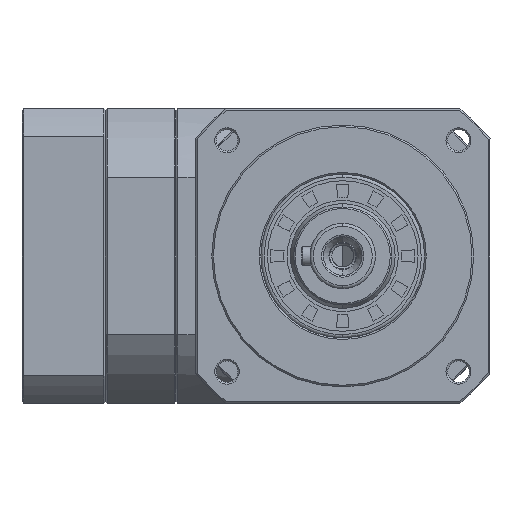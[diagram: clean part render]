
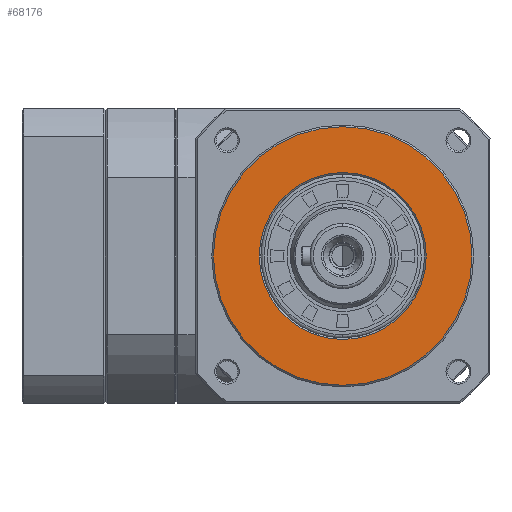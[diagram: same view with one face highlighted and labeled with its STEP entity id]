
A CAD part, left-side view. The second image highlights one B-rep face of the part: STEP entity #68176.
In plain terms, the highlighted planar face has unit normal (-1, 0, 0).
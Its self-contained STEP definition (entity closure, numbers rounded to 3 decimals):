
#436 = CIRCLE ( 'NONE', #11419, 25.5 ) ;
#3754 = DIRECTION ( 'NONE',  ( 0., 0., 1. ) ) ;
#5687 = DIRECTION ( 'NONE',  ( -1., 0., 0. ) ) ;
#7594 = VERTEX_POINT ( 'NONE', #15191 ) ;
#7907 = ORIENTED_EDGE ( 'NONE', *, *, #26927, .F. ) ;
#11103 = VERTEX_POINT ( 'NONE', #59745 ) ;
#11419 = AXIS2_PLACEMENT_3D ( 'NONE', #62269, #25227, #3754 ) ;
#14205 = PLANE ( 'NONE',  #37841 ) ;
#15191 = CARTESIAN_POINT ( 'NONE',  ( 0., 0., -39.5 ) ) ;
#16715 = AXIS2_PLACEMENT_3D ( 'NONE', #80832, #44364, #96349 ) ;
#17540 = ORIENTED_EDGE ( 'NONE', *, *, #35103, .T. ) ;
#21809 = EDGE_CURVE ( 'NONE', #87394, #11103, #46621, .T. ) ;
#23875 = DIRECTION ( 'NONE',  ( 0., 0., 1. ) ) ;
#24145 = CARTESIAN_POINT ( 'NONE',  ( 0., 0., 39.5 ) ) ;
#25227 = DIRECTION ( 'NONE',  ( -1., 0., 0. ) ) ;
#25593 = CIRCLE ( 'NONE', #16715, 39.5 ) ;
#26927 = EDGE_CURVE ( 'NONE', #11103, #87394, #436, .T. ) ;
#29221 = CARTESIAN_POINT ( 'NONE',  ( 0., -39.974, 39.974 ) ) ;
#30484 = DIRECTION ( 'NONE',  ( 0., 0., -1. ) ) ;
#35103 = EDGE_CURVE ( 'NONE', #7594, #54411, #48867, .T. ) ;
#35834 = FACE_OUTER_BOUND ( 'NONE', #78145, .T. ) ;
#37841 = AXIS2_PLACEMENT_3D ( 'NONE', #29221, #81216, #30484 ) ;
#44364 = DIRECTION ( 'NONE',  ( -1., 0., 0. ) ) ;
#46621 = CIRCLE ( 'NONE', #87189, 25.5 ) ;
#48867 = CIRCLE ( 'NONE', #91576, 39.5 ) ;
#53464 = CARTESIAN_POINT ( 'NONE',  ( 0., 0., 0. ) ) ;
#54411 = VERTEX_POINT ( 'NONE', #24145 ) ;
#54947 = ORIENTED_EDGE ( 'NONE', *, *, #21809, .F. ) ;
#59745 = CARTESIAN_POINT ( 'NONE',  ( 0., 0., -25.5 ) ) ;
#60241 = FACE_BOUND ( 'NONE', #62120, .T. ) ;
#62120 = EDGE_LOOP ( 'NONE', ( #54947, #7907 ) ) ;
#62269 = CARTESIAN_POINT ( 'NONE',  ( 0., 0., 0. ) ) ;
#66100 = CARTESIAN_POINT ( 'NONE',  ( 0., 0., 0. ) ) ;
#68176 = ADVANCED_FACE ( 'NONE', ( #60241, #35834 ), #14205, .F. ) ;
#71053 = DIRECTION ( 'NONE',  ( 0., 0., -1. ) ) ;
#71521 = EDGE_CURVE ( 'NONE', #54411, #7594, #25593, .T. ) ;
#78145 = EDGE_LOOP ( 'NONE', ( #17540, #82860 ) ) ;
#78308 = CARTESIAN_POINT ( 'NONE',  ( 0., 0., 25.5 ) ) ;
#80832 = CARTESIAN_POINT ( 'NONE',  ( 0., 0., 0. ) ) ;
#81216 = DIRECTION ( 'NONE',  ( 1., 0., 0. ) ) ;
#82468 = DIRECTION ( 'NONE',  ( -1., 0., 0. ) ) ;
#82860 = ORIENTED_EDGE ( 'NONE', *, *, #71521, .T. ) ;
#87189 = AXIS2_PLACEMENT_3D ( 'NONE', #53464, #82468, #23875 ) ;
#87394 = VERTEX_POINT ( 'NONE', #78308 ) ;
#91576 = AXIS2_PLACEMENT_3D ( 'NONE', #66100, #5687, #71053 ) ;
#96349 = DIRECTION ( 'NONE',  ( 0., 0., -1. ) ) ;
